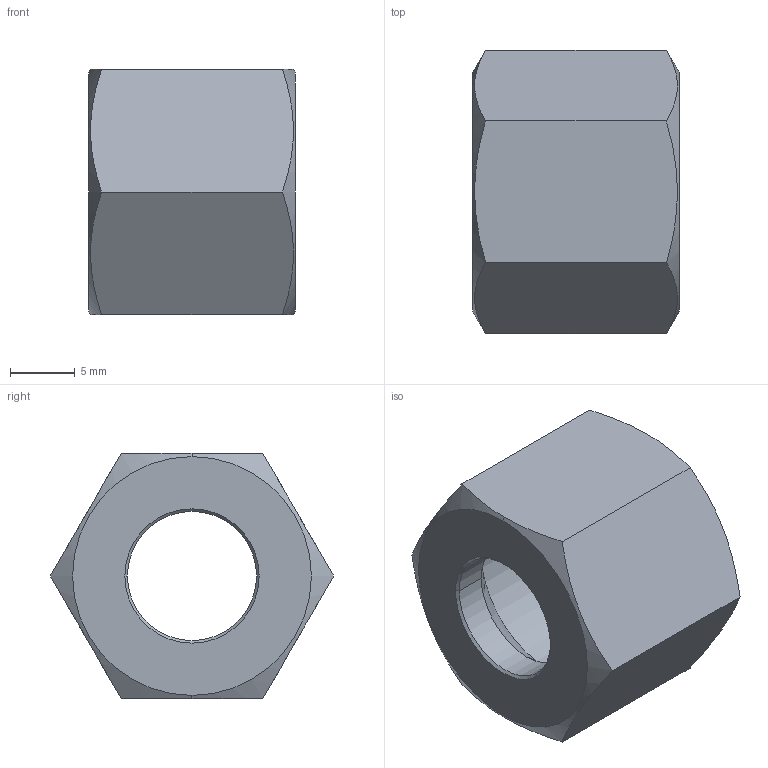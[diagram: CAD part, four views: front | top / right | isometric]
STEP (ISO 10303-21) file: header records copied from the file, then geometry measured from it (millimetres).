
FILE_DESCRIPTION((''),'2;1');
FILE_NAME('100206.stp','2006-03-06T15:11:37',('Dario Falcomer'),('CAST S.p.A.'),'AutoCAD STEP 2000i','AutoCAD 2000i',', , ');
FILE_SCHEMA(('CONFIG_CONTROL_DESIGN'));
Length unit declared in the file: millimetre
Products named in the file (2): 100206.0; CHIAVE_DADI#0
Assembly tree (1 placements, depth 2):
  100206.0
    CHIAVE_DADI#0
Bounding box: 16 x 21.94 x 19 mm (x, y, z)
Volume: 2612.7 mm3; surface area: 2070.4 mm2
Topology: 1 solids, 1 shells, 22 faces, 52 edges, 32 vertices
Faces by surface type: cone 10, plane 8, cylinder 4
Entity records: 725 total; most frequent: CARTESIAN_POINT 140, ORIENTED_EDGE 104, DIRECTION 100, EDGE_CURVE 52, AXIS2_PLACEMENT_3D 40, VERTEX_POINT 32, EDGE_LOOP 24, FACE_OUTER_BOUND 22
